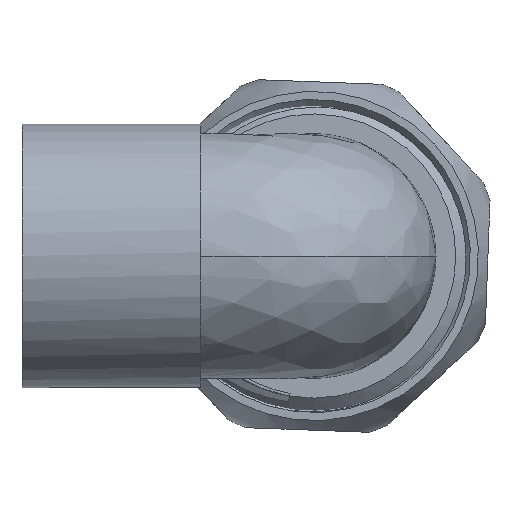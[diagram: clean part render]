
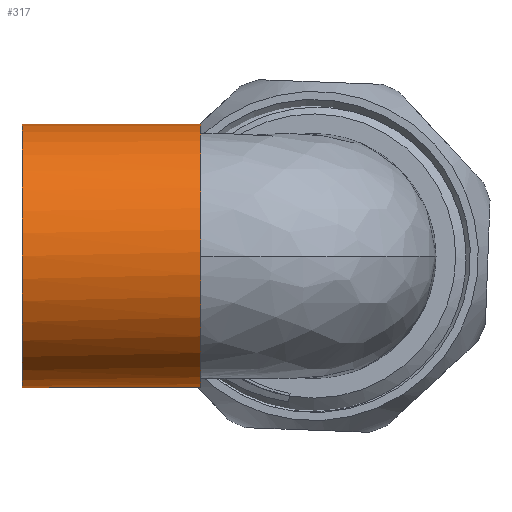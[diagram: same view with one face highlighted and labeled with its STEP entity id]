
A CAD part, left-side view. The second image highlights one B-rep face of the part: STEP entity #317.
In plain terms, the highlighted cylindrical face has radius 14 mm (diameter 28 mm), a full revolution.
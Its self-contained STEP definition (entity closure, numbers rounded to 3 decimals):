
#268=CARTESIAN_POINT('',(0.0,50.555,0.0));
#269=DIRECTION('',(0.0,1.0,0.0));
#270=DIRECTION('',(0.0,0.0,1.0));
#271=AXIS2_PLACEMENT_3D('',#268,#269,#270);
#272=CYLINDRICAL_SURFACE('',#271,14.);
#273=CARTESIAN_POINT('',(12.733,12.,-5.82));
#274=VERTEX_POINT('',#273);
#275=CARTESIAN_POINT('',(12.733,12.,5.82));
#276=VERTEX_POINT('',#275);
#277=CARTESIAN_POINT('',(0.0,12.,0.0));
#278=DIRECTION('',(0.0,1.0,0.0));
#279=DIRECTION('',(0.0,0.0,1.0));
#280=AXIS2_PLACEMENT_3D('',#277,#278,#279);
#281=CIRCLE('',#280,14.);
#282=EDGE_CURVE('',#274,#276,#281,.T.);
#283=ORIENTED_EDGE('',*,*,#282,.T.);
#284=CARTESIAN_POINT('',(14.,13.085,0.));
#285=VERTEX_POINT('',#284);
#286=CARTESIAN_POINT('',(14.,13.085,0.));
#287=CARTESIAN_POINT('',(14.,13.085,1.023));
#288=CARTESIAN_POINT('',(13.888,12.982,2.035));
#289=CARTESIAN_POINT('',(13.454,12.605,4.));
#290=CARTESIAN_POINT('',(13.136,12.334,4.937));
#291=CARTESIAN_POINT('',(12.733,12.,5.82));
#292=B_SPLINE_CURVE_WITH_KNOTS('',3,(#286,#287,#288,#289,#290,#291),.UNSPECIFIED.,.F.,.U.,(4,2,4),(-0.616,-0.308,0.),.UNSPECIFIED.);
#293=EDGE_CURVE('',#285,#276,#292,.T.);
#294=ORIENTED_EDGE('',*,*,#293,.F.);
#295=CARTESIAN_POINT('',(12.733,12.,-5.82));
#296=CARTESIAN_POINT('',(13.135,12.333,-4.939));
#297=CARTESIAN_POINT('',(13.453,12.604,-4.004));
#298=CARTESIAN_POINT('',(13.887,12.982,-2.04));
#299=CARTESIAN_POINT('',(14.,13.085,-1.025));
#300=CARTESIAN_POINT('',(14.,13.085,0.));
#301=B_SPLINE_CURVE_WITH_KNOTS('',3,(#295,#296,#297,#298,#299,#300),.UNSPECIFIED.,.F.,.U.,(4,2,4),(-0.614,-0.308,0.),.UNSPECIFIED.);
#302=EDGE_CURVE('',#274,#285,#301,.T.);
#303=ORIENTED_EDGE('',*,*,#302,.F.);
#304=EDGE_LOOP('',(#283,#294,#303));
#305=FACE_OUTER_BOUND('',#304,.T.);
#306=CARTESIAN_POINT('',(0.0,31.0,14.));
#307=VERTEX_POINT('',#306);
#308=CARTESIAN_POINT('',(0.0,31.0,0.0));
#309=DIRECTION('',(0.0,1.0,0.0));
#310=DIRECTION('',(0.0,0.0,1.0));
#311=AXIS2_PLACEMENT_3D('',#308,#309,#310);
#312=CIRCLE('',#311,14.);
#313=EDGE_CURVE('',#307,#307,#312,.T.);
#314=ORIENTED_EDGE('',*,*,#313,.F.);
#315=EDGE_LOOP('',(#314));
#316=FACE_BOUND('',#315,.T.);
#317=ADVANCED_FACE('',(#305,#316),#272,.T.);
